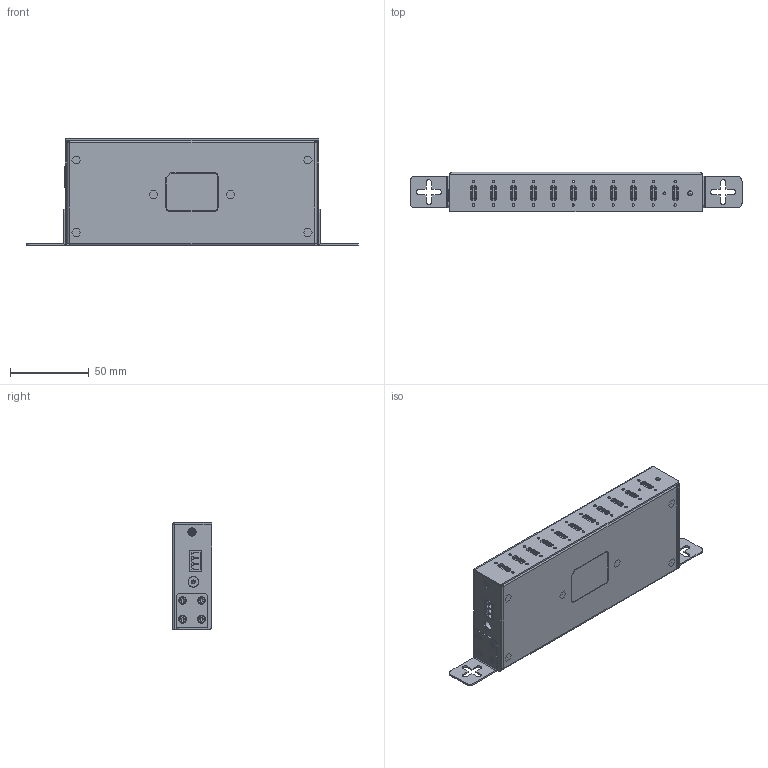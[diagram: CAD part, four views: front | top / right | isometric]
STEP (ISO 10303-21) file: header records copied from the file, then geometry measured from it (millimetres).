
FILE_DESCRIPTION(/* description */ (''),/* implementation_level */ '2;1');
FILE_NAME(/* name */ 'GM-HU310C-DW_Model_JWV1.step',/* time_stamp */ '2025-02-04T13:04:40-05:00',/* author */ (''),/* organization */ (''),/* preprocessor_version */ 'ST-DEVELOPER v20',/* originating_system */ 'Autodesk Translation Framework v13.20.0.188',/* authorisation */ '');
FILE_SCHEMA (('AUTOMOTIVE_DESIGN { 1 0 10303 214 3 1 1 }'));
Length unit declared in the file: millimetre
Products named in the file (14): HT2-C10L_ASM; PCBA-HT2-C10L_ASM; PCB-HT1-A10L-V1; OQ3_81; DCS0-02000; LED_1-LONG; TM3X4ACRO; MYLAR; USCF-242N-4BM80; HT2C10L-TOP-BK; HT2C10L-BOT-BK; HT2CA46L-38-B; FM-3X3_8CCRO; FM3X3_8CCRO-A
Assembly tree (39 placements, depth 3):
  HT2-C10L_ASM
    PCBA-HT2-C10L_ASM
      PCB-HT1-A10L-V1
      OQ3_81
      DCS0-02000
      LED_1-LONG
      TM3X4ACRO  x6
      MYLAR
      USCF-242N-4BM80  x11
    HT2C10L-TOP-BK
    HT2C10L-BOT-BK
    HT2CA46L-38-B  x2
    FM-3X3_8CCRO  x8
    FM3X3_8CCRO-A  x4
Bounding box: 211 x 25.02 x 68 mm (x, y, z)
Volume: 57326.9 mm3; surface area: 104348.9 mm2
Topology: 48 solids, 48 shells, 2089 faces, 5575 edges, 3654 vertices
Faces by surface type: plane 1239, cylinder 623, bspline 178, cone 34, torus 13, sphere 2
Full cylindrical faces by diameter (mm): 1.1 x1, 1.3 x1, 1.6 x23, 2 x1, 2.5 x22, 2.6 x16, 3 x68, 3.048 x6, 3.5 x1, 4 x2, 4.1 x6, 4.2 x8, 4.5 x7, 6.5 x1, 6.6 x1, 6.8 x1
Entity records: 34346 total; most frequent: CARTESIAN_POINT 12718, DIRECTION 4318, ORIENTED_EDGE 4302, EDGE_CURVE 2151, LINE 1480, VECTOR 1480, AXIS2_PLACEMENT_3D 1419, VERTEX_POINT 1402
